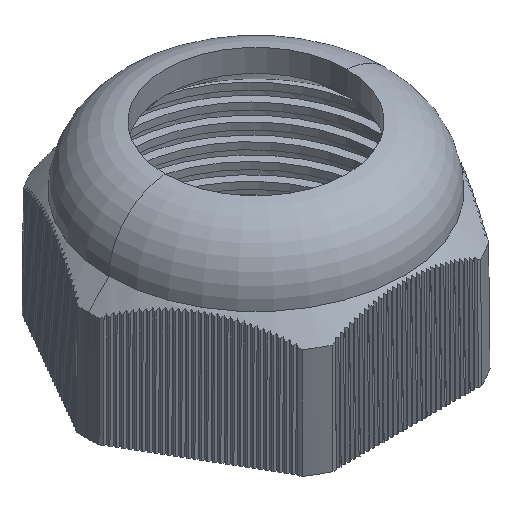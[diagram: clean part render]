
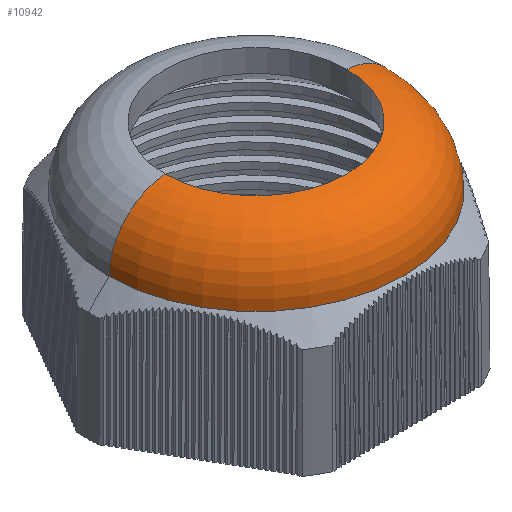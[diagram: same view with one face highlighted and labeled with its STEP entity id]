
A CAD part, isometric view. The second image highlights one B-rep face of the part: STEP entity #10942.
In plain terms, the highlighted toroidal (fillet/blend) face has major radius 6.75 mm and minor radius 4.725 mm.
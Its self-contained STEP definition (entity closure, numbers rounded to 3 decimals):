
#343 = VERTEX_POINT ( 'NONE', #6680 ) ;
#1324 = AXIS2_PLACEMENT_3D ( 'NONE', #17548, #1401, #25454 ) ;
#1379 = DIRECTION ( 'NONE',  ( 1., 0., 0. ) ) ;
#1401 = DIRECTION ( 'NONE',  ( 0., -1., 0. ) ) ;
#3524 = CIRCLE ( 'NONE', #8509, 7.088 ) ;
#3854 = DIRECTION ( 'NONE',  ( 0., 1., 0. ) ) ;
#3912 = ORIENTED_EDGE ( 'NONE', *, *, #5563, .T. ) ;
#4053 = DIRECTION ( 'NONE',  ( 0., 0., -1. ) ) ;
#4117 = CARTESIAN_POINT ( 'NONE',  ( -11.47, 0.013, 13.627 ) ) ;
#4671 = CIRCLE ( 'NONE', #1324, 4.725 ) ;
#5563 = EDGE_CURVE ( 'NONE', #343, #19553, #4671, .T. ) ;
#6680 = CARTESIAN_POINT ( 'NONE',  ( -7.083, 0.013, 18.352 ) ) ;
#6721 = CARTESIAN_POINT ( 'NONE',  ( 11.48, 0.013, 13.627 ) ) ;
#7449 = EDGE_CURVE ( 'NONE', #15783, #17493, #20892, .T. ) ;
#7460 = DIRECTION ( 'NONE',  ( -1., 0., 0. ) ) ;
#8264 = AXIS2_PLACEMENT_3D ( 'NONE', #23465, #3854, #23855 ) ;
#8509 = AXIS2_PLACEMENT_3D ( 'NONE', #9616, #25567, #1379 ) ;
#9616 = CARTESIAN_POINT ( 'NONE',  ( 0.005, 0.013, 18.352 ) ) ;
#10466 = EDGE_LOOP ( 'NONE', ( #15711, #17121, #3912, #13100 ) ) ;
#10942 = ADVANCED_FACE ( 'NONE', ( #16583 ), #16685, .T. ) ;
#13100 = ORIENTED_EDGE ( 'NONE', *, *, #22300, .F. ) ;
#13136 = AXIS2_PLACEMENT_3D ( 'NONE', #15267, #13302, #21335 ) ;
#13302 = DIRECTION ( 'NONE',  ( 0., 0., -1. ) ) ;
#15267 = CARTESIAN_POINT ( 'NONE',  ( 0.005, 0.013, 13.627 ) ) ;
#15711 = ORIENTED_EDGE ( 'NONE', *, *, #7449, .F. ) ;
#15783 = VERTEX_POINT ( 'NONE', #25613 ) ;
#16018 = CARTESIAN_POINT ( 'NONE',  ( 0.005, 0.013, 13.639 ) ) ;
#16583 = FACE_OUTER_BOUND ( 'NONE', #10466, .T. ) ;
#16685 = TOROIDAL_SURFACE ( 'NONE', #21264, 6.75, 4.725 ) ;
#17121 = ORIENTED_EDGE ( 'NONE', *, *, #23389, .F. ) ;
#17493 = VERTEX_POINT ( 'NONE', #6721 ) ;
#17548 = CARTESIAN_POINT ( 'NONE',  ( -6.745, 0.013, 13.639 ) ) ;
#19553 = VERTEX_POINT ( 'NONE', #4117 ) ;
#20294 = CIRCLE ( 'NONE', #13136, 11.475 ) ;
#20892 = CIRCLE ( 'NONE', #8264, 4.725 ) ;
#21264 = AXIS2_PLACEMENT_3D ( 'NONE', #16018, #4053, #7460 ) ;
#21335 = DIRECTION ( 'NONE',  ( -1., 0., 0. ) ) ;
#22300 = EDGE_CURVE ( 'NONE', #17493, #19553, #20294, .T. ) ;
#23389 = EDGE_CURVE ( 'NONE', #343, #15783, #3524, .T. ) ;
#23465 = CARTESIAN_POINT ( 'NONE',  ( 6.755, 0.013, 13.639 ) ) ;
#23855 = DIRECTION ( 'NONE',  ( -1., 0., 0. ) ) ;
#25454 = DIRECTION ( 'NONE',  ( 0., 0., -1. ) ) ;
#25567 = DIRECTION ( 'NONE',  ( 0., 0., 1. ) ) ;
#25613 = CARTESIAN_POINT ( 'NONE',  ( 7.092, 0.013, 18.352 ) ) ;
